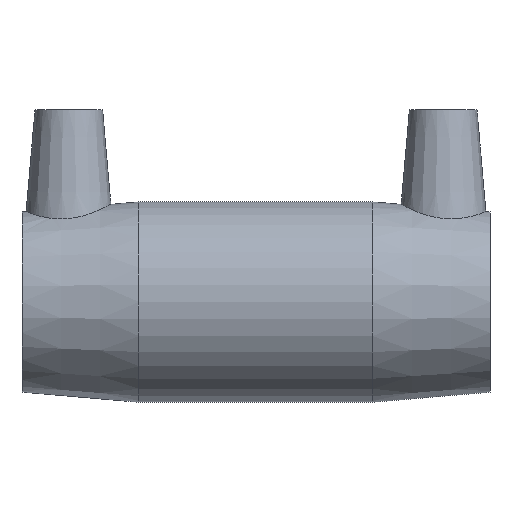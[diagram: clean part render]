
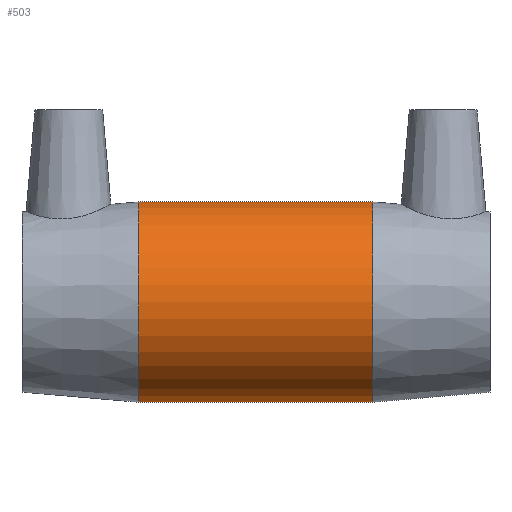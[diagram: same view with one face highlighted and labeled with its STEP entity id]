
A CAD part, top view. The second image highlights one B-rep face of the part: STEP entity #503.
In plain terms, the highlighted cylindrical face has radius 22.225 mm (diameter 44.45 mm), a full revolution.
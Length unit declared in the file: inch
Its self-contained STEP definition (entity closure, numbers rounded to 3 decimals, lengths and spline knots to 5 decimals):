
#26=FACE_BOUND('',#101,.T.);
#64=FACE_OUTER_BOUND('',#100,.T.);
#100=EDGE_LOOP('',(#384,#385,#386,#387,#388,#389));
#101=EDGE_LOOP('',(#390,#391));
#128=B_SPLINE_CURVE_WITH_KNOTS('',3,(#846,#847,#848,#849,#850,#851,#852,
#853,#854,#855,#856,#857,#858,#859,#860,#861),.UNSPECIFIED.,.F.,.F.,(4,
2,2,2,2,2,2,4),(0.,0.33532,0.67064,1.34129,
1.6696,1.99792,2.32623,2.65455),
 .UNSPECIFIED.);
#129=B_SPLINE_CURVE_WITH_KNOTS('',3,(#862,#863,#864,#865,#866,#867,#868,
#869,#870,#871,#872,#873,#874,#875,#876,#877,#878,#879,#880,#881,#882,#883,
#884,#885,#886,#887,#888,#889,#890,#891,#892,#893,#894,#895,#896,#897,#898,
#899,#900,#901,#902,#903,#904,#905),.UNSPECIFIED.,.F.,.F.,(4,2,2,2,2,2,
2,2,2,2,2,2,2,2,2,2,2,2,2,2,2,4),(2.65455,2.98286,3.31118,
3.63949,3.96781,4.63845,4.97377,5.30909,
5.64442,5.97974,6.65038,6.9787,7.30701,
7.63533,7.96364,8.29196,8.62027,8.94859,
9.2769,9.94754,10.28287,10.61819),
 .UNSPECIFIED.);
#142=LINE('',#1030,#160);
#160=VECTOR('',#684,0.875);
#182=CIRCLE('',#567,0.875);
#183=CIRCLE('',#568,0.875);
#184=CIRCLE('',#569,0.875);
#185=CIRCLE('',#570,0.875);
#217=VERTEX_POINT('',#844);
#218=VERTEX_POINT('',#845);
#234=VERTEX_POINT('',#1025);
#235=VERTEX_POINT('',#1026);
#236=VERTEX_POINT('',#1029);
#237=VERTEX_POINT('',#1031);
#270=EDGE_CURVE('',#217,#218,#128,.T.);
#271=EDGE_CURVE('',#218,#217,#129,.T.);
#294=EDGE_CURVE('',#234,#235,#182,.T.);
#295=EDGE_CURVE('',#235,#234,#183,.T.);
#296=EDGE_CURVE('',#235,#236,#142,.T.);
#297=EDGE_CURVE('',#236,#237,#184,.T.);
#298=EDGE_CURVE('',#237,#236,#185,.T.);
#384=ORIENTED_EDGE('',*,*,#294,.F.);
#385=ORIENTED_EDGE('',*,*,#295,.F.);
#386=ORIENTED_EDGE('',*,*,#296,.T.);
#387=ORIENTED_EDGE('',*,*,#297,.T.);
#388=ORIENTED_EDGE('',*,*,#298,.T.);
#389=ORIENTED_EDGE('',*,*,#296,.F.);
#390=ORIENTED_EDGE('',*,*,#270,.T.);
#391=ORIENTED_EDGE('',*,*,#271,.T.);
#482=CYLINDRICAL_SURFACE('',#566,0.875);
#503=ADVANCED_FACE('',(#64,#26),#482,.T.);
#566=AXIS2_PLACEMENT_3D('',#1024,#678,#679);
#567=AXIS2_PLACEMENT_3D('',#1027,#680,#681);
#568=AXIS2_PLACEMENT_3D('',#1028,#682,#683);
#569=AXIS2_PLACEMENT_3D('',#1032,#685,#686);
#570=AXIS2_PLACEMENT_3D('',#1033,#687,#688);
#678=DIRECTION('center_axis',(1.,0.,0.));
#679=DIRECTION('ref_axis',(0.,1.,0.));
#680=DIRECTION('center_axis',(1.,0.,0.));
#681=DIRECTION('ref_axis',(0.,0.,-1.));
#682=DIRECTION('center_axis',(1.,0.,0.));
#683=DIRECTION('ref_axis',(0.,0.,-1.));
#684=DIRECTION('',(-1.,0.,0.));
#685=DIRECTION('center_axis',(1.,0.,0.));
#686=DIRECTION('ref_axis',(0.,0.,-1.));
#687=DIRECTION('center_axis',(1.,0.,0.));
#688=DIRECTION('ref_axis',(0.,0.,-1.));
#844=CARTESIAN_POINT('',(0.,-0.65551,-0.57959));
#845=CARTESIAN_POINT('',(0.65551,0.,-0.875));
#846=CARTESIAN_POINT('Ctrl Pts',(0.,-0.65551,
-0.57959));
#847=CARTESIAN_POINT('Ctrl Pts',(0.04401,-0.65551,
-0.57959));
#848=CARTESIAN_POINT('Ctrl Pts',(0.08818,-0.65104,
-0.58476));
#849=CARTESIAN_POINT('Ctrl Pts',(0.17423,-0.63346,-0.60376));
#850=CARTESIAN_POINT('Ctrl Pts',(0.21612,-0.62037,-0.61751));
#851=CARTESIAN_POINT('Ctrl Pts',(0.3354,-0.56979,-0.66568));
#852=CARTESIAN_POINT('Ctrl Pts',(0.40659,-0.52045,-0.70659));
#853=CARTESIAN_POINT('Ctrl Pts',(0.49139,-0.43565,-0.75955));
#854=CARTESIAN_POINT('Ctrl Pts',(0.51795,-0.40399,-0.77711));
#855=CARTESIAN_POINT('Ctrl Pts',(0.56544,-0.3343,-0.80953));
#856=CARTESIAN_POINT('Ctrl Pts',(0.58637,-0.29626,-0.82439));
#857=CARTESIAN_POINT('Ctrl Pts',(0.62047,-0.21591,-0.84898));
#858=CARTESIAN_POINT('Ctrl Pts',(0.63367,-0.17349,-0.85874));
#859=CARTESIAN_POINT('Ctrl Pts',(0.6512,-0.08708,
-0.87175));
#860=CARTESIAN_POINT('Ctrl Pts',(0.65551,-0.04309,
-0.875));
#861=CARTESIAN_POINT('Ctrl Pts',(0.65551,0.,
-0.875));
#862=CARTESIAN_POINT('Ctrl Pts',(0.65551,0.,
-0.875));
#863=CARTESIAN_POINT('Ctrl Pts',(0.65551,0.04309,-0.875));
#864=CARTESIAN_POINT('Ctrl Pts',(0.6512,0.08708,-0.87175));
#865=CARTESIAN_POINT('Ctrl Pts',(0.63367,0.17349,-0.85874));
#866=CARTESIAN_POINT('Ctrl Pts',(0.62047,0.21591,-0.84898));
#867=CARTESIAN_POINT('Ctrl Pts',(0.58637,0.29626,-0.82439));
#868=CARTESIAN_POINT('Ctrl Pts',(0.56544,0.3343,-0.80953));
#869=CARTESIAN_POINT('Ctrl Pts',(0.51795,0.40399,-0.77711));
#870=CARTESIAN_POINT('Ctrl Pts',(0.49139,0.43565,-0.75955));
#871=CARTESIAN_POINT('Ctrl Pts',(0.40659,0.52045,-0.70659));
#872=CARTESIAN_POINT('Ctrl Pts',(0.3354,0.56979,-0.66568));
#873=CARTESIAN_POINT('Ctrl Pts',(0.21612,0.62037,-0.61751));
#874=CARTESIAN_POINT('Ctrl Pts',(0.17423,0.63346,-0.60376));
#875=CARTESIAN_POINT('Ctrl Pts',(0.08818,0.65104,-0.58476));
#876=CARTESIAN_POINT('Ctrl Pts',(0.04401,0.65551,-0.57959));
#877=CARTESIAN_POINT('Ctrl Pts',(-0.04401,0.65551,
-0.57959));
#878=CARTESIAN_POINT('Ctrl Pts',(-0.08818,0.65104,
-0.58476));
#879=CARTESIAN_POINT('Ctrl Pts',(-0.17423,0.63346,-0.60376));
#880=CARTESIAN_POINT('Ctrl Pts',(-0.21612,0.62037,-0.61751));
#881=CARTESIAN_POINT('Ctrl Pts',(-0.3354,0.56979,-0.66568));
#882=CARTESIAN_POINT('Ctrl Pts',(-0.40659,0.52045,-0.70659));
#883=CARTESIAN_POINT('Ctrl Pts',(-0.49139,0.43565,-0.75955));
#884=CARTESIAN_POINT('Ctrl Pts',(-0.51795,0.40399,-0.77711));
#885=CARTESIAN_POINT('Ctrl Pts',(-0.56544,0.3343,-0.80953));
#886=CARTESIAN_POINT('Ctrl Pts',(-0.58637,0.29626,-0.82439));
#887=CARTESIAN_POINT('Ctrl Pts',(-0.62047,0.21591,-0.84898));
#888=CARTESIAN_POINT('Ctrl Pts',(-0.63367,0.17349,-0.85874));
#889=CARTESIAN_POINT('Ctrl Pts',(-0.6512,0.08708,
-0.87175));
#890=CARTESIAN_POINT('Ctrl Pts',(-0.65551,0.04309,
-0.875));
#891=CARTESIAN_POINT('Ctrl Pts',(-0.65551,-0.04309,
-0.875));
#892=CARTESIAN_POINT('Ctrl Pts',(-0.6512,-0.08708,
-0.87175));
#893=CARTESIAN_POINT('Ctrl Pts',(-0.63367,-0.17349,-0.85874));
#894=CARTESIAN_POINT('Ctrl Pts',(-0.62047,-0.21591,
-0.84898));
#895=CARTESIAN_POINT('Ctrl Pts',(-0.58637,-0.29626,
-0.82439));
#896=CARTESIAN_POINT('Ctrl Pts',(-0.56544,-0.3343,
-0.80953));
#897=CARTESIAN_POINT('Ctrl Pts',(-0.51795,-0.40399,
-0.77711));
#898=CARTESIAN_POINT('Ctrl Pts',(-0.49139,-0.43565,
-0.75955));
#899=CARTESIAN_POINT('Ctrl Pts',(-0.40659,-0.52045,
-0.70659));
#900=CARTESIAN_POINT('Ctrl Pts',(-0.3354,-0.56979,
-0.66568));
#901=CARTESIAN_POINT('Ctrl Pts',(-0.21612,-0.62037,
-0.61751));
#902=CARTESIAN_POINT('Ctrl Pts',(-0.17423,-0.63346,
-0.60376));
#903=CARTESIAN_POINT('Ctrl Pts',(-0.08818,-0.65104,
-0.58476));
#904=CARTESIAN_POINT('Ctrl Pts',(-0.04401,-0.65551,
-0.57959));
#905=CARTESIAN_POINT('Ctrl Pts',(0.,-0.65551,
-0.57959));
#1024=CARTESIAN_POINT('Origin',(0.,0.,0.));
#1025=CARTESIAN_POINT('',(1.0225,0.875,0.));
#1026=CARTESIAN_POINT('',(1.0225,-0.875,0.));
#1027=CARTESIAN_POINT('Origin',(1.0225,0.,0.));
#1028=CARTESIAN_POINT('Origin',(1.0225,0.,0.));
#1029=CARTESIAN_POINT('',(-1.0225,-0.875,0.));
#1030=CARTESIAN_POINT('',(0.,-0.875,0.));
#1031=CARTESIAN_POINT('',(-1.0225,0.875,0.));
#1032=CARTESIAN_POINT('Origin',(-1.0225,0.,0.));
#1033=CARTESIAN_POINT('Origin',(-1.0225,0.,0.));
